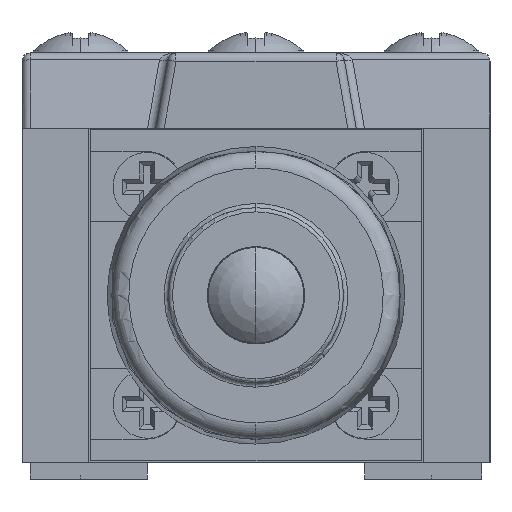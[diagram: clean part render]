
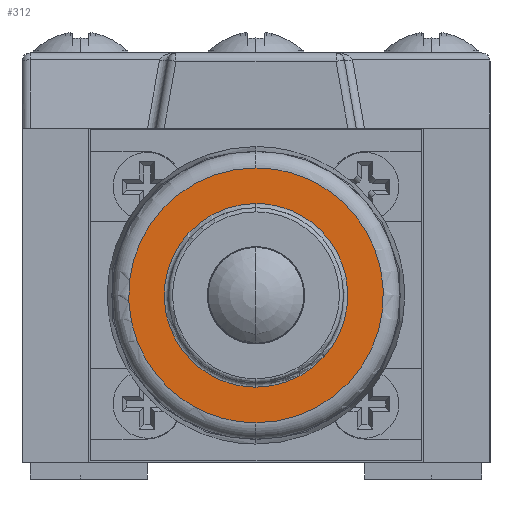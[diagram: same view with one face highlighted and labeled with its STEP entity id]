
A CAD part, left-side view. The second image highlights one B-rep face of the part: STEP entity #312.
In plain terms, the highlighted planar face has unit normal (-1, 0, 0).
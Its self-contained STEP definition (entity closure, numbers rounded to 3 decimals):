
#312=ADVANCED_FACE('',(#2181,#2183),#2185,.T.);
#2181=FACE_BOUND('',#2182,.T.);
#2182=EDGE_LOOP('',(#88335,#88336));
#2183=FACE_OUTER_BOUND('',#2184,.T.);
#2184=EDGE_LOOP('',(#88337,#88338));
#2185=PLANE('',#2186);
#2186=AXIS2_PLACEMENT_3D('',#2187,#2188,#2189);
#2187=CARTESIAN_POINT('',(-13.,0.,0.));
#2188=DIRECTION('',(-1.,0.,0.));
#2189=DIRECTION('',(0.,0.,-1.));
#88335=ORIENTED_EDGE('',*,*,#89560,.F.);
#88336=ORIENTED_EDGE('',*,*,#89561,.F.);
#88337=ORIENTED_EDGE('',*,*,#89562,.T.);
#88338=ORIENTED_EDGE('',*,*,#89486,.T.);
#89486=EDGE_CURVE('',#90761,#90762,#90763,.T.);
#89560=EDGE_CURVE('',#90891,#90892,#90893,.T.);
#89561=EDGE_CURVE('',#90892,#90891,#90894,.T.);
#89562=EDGE_CURVE('',#90762,#90761,#90895,.T.);
#90761=VERTEX_POINT('',#93706);
#90762=VERTEX_POINT('',#93707);
#90763=(BOUNDED_CURVE()B_SPLINE_CURVE(3,
(#93708,#93709,#93710,#93711),
.UNSPECIFIED.,.F.,.F.)B_SPLINE_CURVE_WITH_KNOTS((4,4),
(0.,1.),
.UNSPECIFIED.)CURVE()GEOMETRIC_REPRESENTATION_ITEM()RATIONAL_B_SPLINE_CURVE((1.,
0.333,0.333,1.))REPRESENTATION_ITEM(''));
#90891=VERTEX_POINT('',#93998);
#90892=VERTEX_POINT('',#93999);
#90893=(BOUNDED_CURVE()B_SPLINE_CURVE(3,
(#94000,#94001,#94002,#94003),
.UNSPECIFIED.,.F.,.F.)B_SPLINE_CURVE_WITH_KNOTS((4,4),
(0.,1.),
.UNSPECIFIED.)CURVE()GEOMETRIC_REPRESENTATION_ITEM()RATIONAL_B_SPLINE_CURVE((1.,
0.333,0.333,1.))REPRESENTATION_ITEM(''));
#90894=(BOUNDED_CURVE()B_SPLINE_CURVE(3,
(#94004,#94005,#94006,#94007),
.UNSPECIFIED.,.F.,.F.)B_SPLINE_CURVE_WITH_KNOTS((4,4),
(0.,1.),
.UNSPECIFIED.)CURVE()GEOMETRIC_REPRESENTATION_ITEM()RATIONAL_B_SPLINE_CURVE((1.,
0.333,0.333,1.))REPRESENTATION_ITEM(''));
#90895=(BOUNDED_CURVE()B_SPLINE_CURVE(3,
(#94008,#94009,#94010,#94011),
.UNSPECIFIED.,.F.,.F.)B_SPLINE_CURVE_WITH_KNOTS((4,4),
(0.,1.),
.UNSPECIFIED.)CURVE()GEOMETRIC_REPRESENTATION_ITEM()RATIONAL_B_SPLINE_CURVE((1.,
0.333,0.333,1.))REPRESENTATION_ITEM(''));
#93706=CARTESIAN_POINT('',(-13.,0.,17.62));
#93707=CARTESIAN_POINT('',(-13.,0.,2.38));
#93708=CARTESIAN_POINT('',(-13.,0.,17.62));
#93709=CARTESIAN_POINT('',(-13.,15.24,17.62));
#93710=CARTESIAN_POINT('',(-13.,15.24,2.38));
#93711=CARTESIAN_POINT('',(-13.,0.,2.38));
#93998=CARTESIAN_POINT('',(-13.,0.,15.491));
#93999=CARTESIAN_POINT('',(-13.,0.,4.509));
#94000=CARTESIAN_POINT('',(-13.,0.,15.491));
#94001=CARTESIAN_POINT('',(-13.,10.983,15.491));
#94002=CARTESIAN_POINT('',(-13.,10.983,4.509));
#94003=CARTESIAN_POINT('',(-13.,0.,4.509));
#94004=CARTESIAN_POINT('',(-13.,0.,4.509));
#94005=CARTESIAN_POINT('',(-13.,-10.983,4.509));
#94006=CARTESIAN_POINT('',(-13.,-10.983,15.491));
#94007=CARTESIAN_POINT('',(-13.,0.,15.491));
#94008=CARTESIAN_POINT('',(-13.,0.,2.38));
#94009=CARTESIAN_POINT('',(-13.,-15.24,2.38));
#94010=CARTESIAN_POINT('',(-13.,-15.24,17.62));
#94011=CARTESIAN_POINT('',(-13.,0.,17.62));
